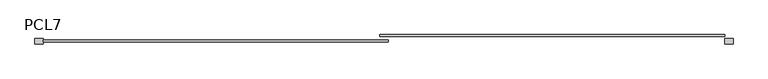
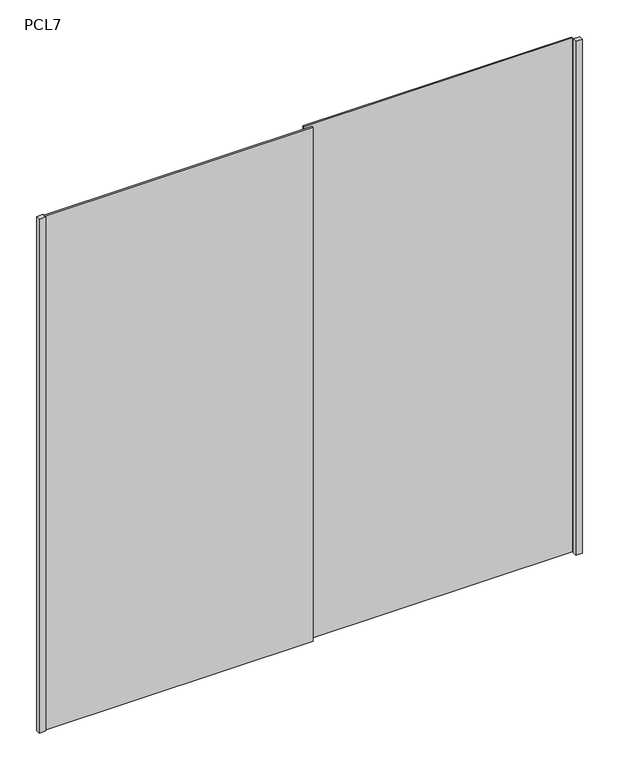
"""IFC4 building model written with IfcOpenShell, lengths in millimetres: furniture geometry, Puerta Closet corre 2 hojas : PCL7."""

from ifc_helpers import new_model, si_unit, origin, origin_with_axes, place, context, project, spatial, polyline, outline, extrude, source, transform, mapped, element, save


def pcl7_e5fcf431(model_context):
    return source(origin(), model_context, "Body", "SweptSolid", [
        extrude(outline(polyline([(720.0, 80.0), (690.0, 80.0), (690.0, 100.0), (720.0, 100.0), (720.0, 80.0)])), origin_with_axes(), (0.0, 0.0, 1.0), 2520.0),
        extrude(outline(polyline([(690.0, 106.6666667), (-555.0, 106.6666667), (-555.0, 113.3333333), (690.0, 113.3333333), (690.0, 106.6666667)])), origin_with_axes(), (0.0, 0.0, 1.0), 2520.0),
        extrude(outline(polyline([(-525.0, 86.6666667), (-1770.0, 86.6666667), (-1770.0, 93.3333333), (-525.0, 93.3333333), (-525.0, 86.6666667)])), origin_with_axes(), (0.0, 0.0, 1.0), 2520.0),
        extrude(outline(polyline([(-1800.0, 80.0), (-1800.0, 100.0), (-1770.0, 100.0), (-1770.0, 80.0), (-1800.0, 80.0)])), origin_with_axes(), (0.0, 0.0, 1.0), 2520.0),
    ])


if __name__ == "__main__":
    model = new_model("IFC4")
    model_context = context("Model", 3, world=origin())
    ifc_project = project(units=[si_unit("LENGTHUNIT", "METRE", prefix="MILLI")], contexts=[model_context])
    site = spatial("IfcSite", under=ifc_project)
    building = spatial("IfcBuilding", under=site)
    placement = place(None, origin())
    pcl7_shape = pcl7_e5fcf431(model_context)
    element("IfcFurniture", 1, ObjectType="Puerta Closet corre 2 hojas : PCL7", at=placement, inside=building, context=model_context, shape_type="MappedRepresentation", body=[
        mapped(pcl7_shape, transform((0.0, 0.0, 0.0), x_axis=(1.0, 0.0, 0.0), y_axis=(0.0, 1.0, 0.0), z_axis=(0.0, 0.0, 1.0))),
    ])
    save(model, "model.ifc")
